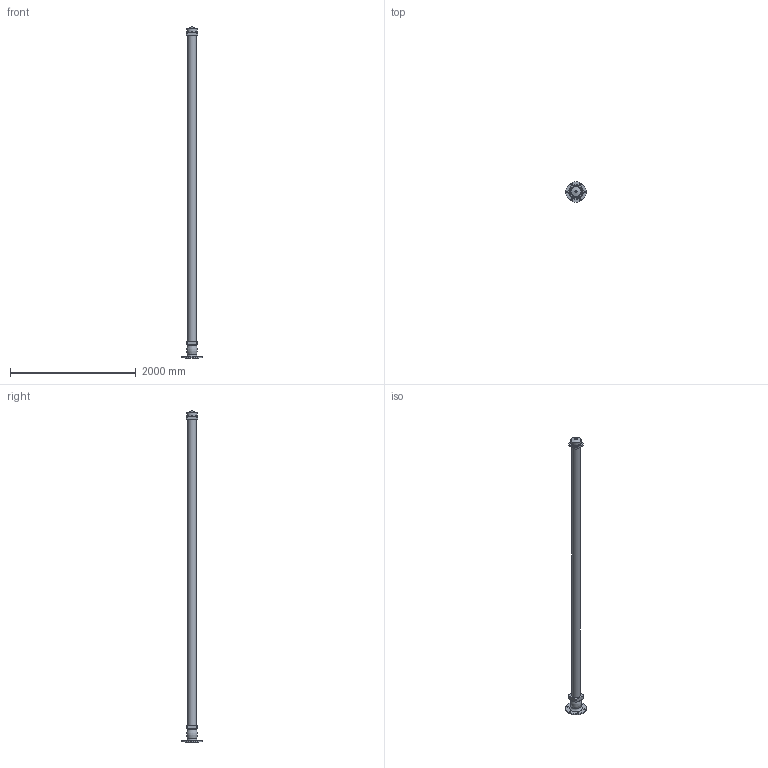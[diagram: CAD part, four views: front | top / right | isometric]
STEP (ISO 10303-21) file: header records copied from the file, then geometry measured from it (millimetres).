
FILE_DESCRIPTION(('STEP AP203'), '1');
FILE_NAME('Ãèäðàíò GPP 5250 ïîæàðíûé ïîäçåìíûé', '', ('UNSPECIFIED'), ('UNSPECIFIED'), 'ASCON STEP Converter 1.6', 'ASCON Math Kernel', '');
FILE_SCHEMA(('CONFIG_CONTROL_DESIGN'));
Length unit declared in the file: millimetre
Bounding box: 330 x 330 x 5272 mm (x, y, z)
Volume: 73285544.2 mm3; surface area: 2427960.6 mm2
Topology: 1 solids, 1 shells, 47 faces, 104 edges, 67 vertices
Faces by surface type: plane 26, cylinder 12, cone 7, torus 2
Full cylindrical faces by diameter (mm): 20 x1, 22 x6, 129 x1, 142 x1, 143 x1, 157.302 x1, 160 x1
Entity records: 1617 total; most frequent: DIRECTION 212, CARTESIAN_POINT 196, ORIENTED_EDGE 164, EDGE_LOOP 88, AXIS2_PLACEMENT_3D 82, EDGE_CURVE 82, VERTEX_POINT 66, COLOUR_RGB 48
